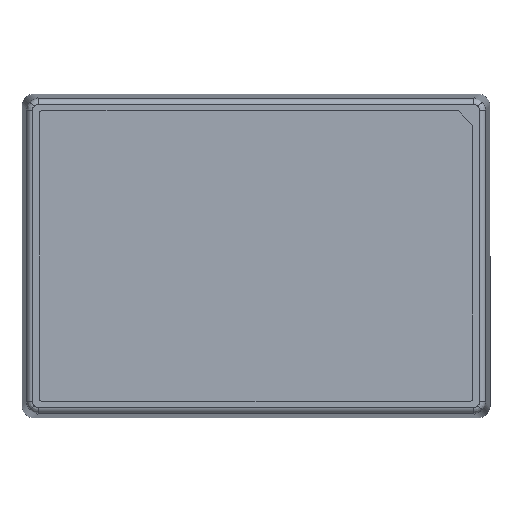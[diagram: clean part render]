
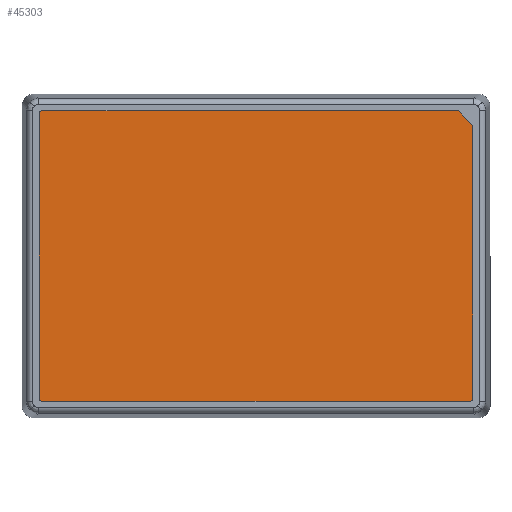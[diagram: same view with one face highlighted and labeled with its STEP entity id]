
A CAD part, front view. The second image highlights one B-rep face of the part: STEP entity #45303.
In plain terms, the highlighted planar face has unit normal (0, -1, 0).
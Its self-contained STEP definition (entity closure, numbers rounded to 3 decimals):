
#156 = EDGE_LOOP ( 'NONE', ( #57738, #26707, #95735, #19350, #76195, #93363, #37369, #5926 ) ) ;
#3661 = CARTESIAN_POINT ( 'NONE',  ( -37., -30.3, 24.75 ) ) ;
#5411 = CARTESIAN_POINT ( 'NONE',  ( 36.5, -30.3, -24.75 ) ) ;
#5926 = ORIENTED_EDGE ( 'NONE', *, *, #16798, .T. ) ;
#6048 = EDGE_CURVE ( 'NONE', #48769, #78757, #74540, .T. ) ;
#8812 = CARTESIAN_POINT ( 'NONE',  ( -37., -30.3, -24.25 ) ) ;
#10522 = CARTESIAN_POINT ( 'NONE',  ( -36.5, -30.3, 24.75 ) ) ;
#11885 = CARTESIAN_POINT ( 'NONE',  ( 36.5, -30.3, -24.25 ) ) ;
#14120 = DIRECTION ( 'NONE',  ( 0., -1., 0. ) ) ;
#16303 = AXIS2_PLACEMENT_3D ( 'NONE', #84989, #14120, #45717 ) ;
#16798 = EDGE_CURVE ( 'NONE', #66891, #48769, #39663, .T. ) ;
#16861 = CARTESIAN_POINT ( 'NONE',  ( 29.625, -30.3, 29.625 ) ) ;
#17856 = DIRECTION ( 'NONE',  ( 0., 0., -1. ) ) ;
#18035 = CARTESIAN_POINT ( 'NONE',  ( 37., -30.3, 24.75 ) ) ;
#18646 = CARTESIAN_POINT ( 'NONE',  ( 37., -30.3, -24.25 ) ) ;
#19350 = ORIENTED_EDGE ( 'NONE', *, *, #102018, .T. ) ;
#20157 = VERTEX_POINT ( 'NONE', #18646 ) ;
#21316 = LINE ( 'NONE', #52899, #81639 ) ;
#21884 = FACE_OUTER_BOUND ( 'NONE', #156, .T. ) ;
#22327 = CARTESIAN_POINT ( 'NONE',  ( -36.5, -30.3, -24.75 ) ) ;
#23314 = CIRCLE ( 'NONE', #81127, 0.5 ) ;
#26707 = ORIENTED_EDGE ( 'NONE', *, *, #36448, .T. ) ;
#28224 = EDGE_CURVE ( 'NONE', #84952, #98307, #21316, .T. ) ;
#29557 = CARTESIAN_POINT ( 'NONE',  ( -37., -30.3, 24.75 ) ) ;
#29590 = CARTESIAN_POINT ( 'NONE',  ( -36.5, -30.3, -24.25 ) ) ;
#33643 = AXIS2_PLACEMENT_3D ( 'NONE', #29590, #61149, #92685 ) ;
#35278 = DIRECTION ( 'NONE',  ( 0., 0., -1. ) ) ;
#36448 = EDGE_CURVE ( 'NONE', #78757, #84952, #78211, .T. ) ;
#37369 = ORIENTED_EDGE ( 'NONE', *, *, #75774, .T. ) ;
#39663 = CIRCLE ( 'NONE', #97408, 0.5 ) ;
#40377 = CARTESIAN_POINT ( 'NONE',  ( 37., -30.3, 22.25 ) ) ;
#42302 = VERTEX_POINT ( 'NONE', #40377 ) ;
#43468 = DIRECTION ( 'NONE',  ( 0., -1., 0. ) ) ;
#45249 = VECTOR ( 'NONE', #48453, 1000. ) ;
#45303 = ADVANCED_FACE ( 'NONE', ( #21884 ), #53465, .T. ) ;
#45717 = DIRECTION ( 'NONE',  ( 0., 0., -1. ) ) ;
#48453 = DIRECTION ( 'NONE',  ( -0.707, 0., 0.707 ) ) ;
#48769 = VERTEX_POINT ( 'NONE', #49596 ) ;
#49319 = VERTEX_POINT ( 'NONE', #86403 ) ;
#49596 = CARTESIAN_POINT ( 'NONE',  ( -37., -30.3, 24.25 ) ) ;
#49622 = DIRECTION ( 'NONE',  ( 0., 0., 1. ) ) ;
#52899 = CARTESIAN_POINT ( 'NONE',  ( -37., -30.3, -24.75 ) ) ;
#53465 = PLANE ( 'NONE',  #16303 ) ;
#55087 = VECTOR ( 'NONE', #49622, 1000. ) ;
#57178 = CARTESIAN_POINT ( 'NONE',  ( -36.5, -30.3, 24.25 ) ) ;
#57241 = VECTOR ( 'NONE', #35278, 1000. ) ;
#57738 = ORIENTED_EDGE ( 'NONE', *, *, #6048, .T. ) ;
#61118 = DIRECTION ( 'NONE',  ( -1., 0., 0. ) ) ;
#61149 = DIRECTION ( 'NONE',  ( 0., -1., 0. ) ) ;
#66891 = VERTEX_POINT ( 'NONE', #10522 ) ;
#67903 = EDGE_CURVE ( 'NONE', #20157, #42302, #88903, .T. ) ;
#74540 = LINE ( 'NONE', #3661, #57241 ) ;
#75016 = DIRECTION ( 'NONE',  ( 0., 0., -1. ) ) ;
#75774 = EDGE_CURVE ( 'NONE', #49319, #66891, #100421, .T. ) ;
#76195 = ORIENTED_EDGE ( 'NONE', *, *, #67903, .T. ) ;
#78211 = CIRCLE ( 'NONE', #33643, 0.5 ) ;
#78757 = VERTEX_POINT ( 'NONE', #8812 ) ;
#81127 = AXIS2_PLACEMENT_3D ( 'NONE', #11885, #43468, #75016 ) ;
#81380 = EDGE_CURVE ( 'NONE', #42302, #49319, #87723, .T. ) ;
#81639 = VECTOR ( 'NONE', #84404, 1000. ) ;
#84404 = DIRECTION ( 'NONE',  ( 1., 0., 0. ) ) ;
#84952 = VERTEX_POINT ( 'NONE', #22327 ) ;
#84989 = CARTESIAN_POINT ( 'NONE',  ( 0., -30.3, 0. ) ) ;
#86403 = CARTESIAN_POINT ( 'NONE',  ( 34.5, -30.3, 24.75 ) ) ;
#87723 = LINE ( 'NONE', #16861, #45249 ) ;
#88715 = DIRECTION ( 'NONE',  ( 0., -1., 0. ) ) ;
#88903 = LINE ( 'NONE', #18035, #55087 ) ;
#92685 = DIRECTION ( 'NONE',  ( 0., 0., -1. ) ) ;
#93363 = ORIENTED_EDGE ( 'NONE', *, *, #81380, .T. ) ;
#93879 = VECTOR ( 'NONE', #61118, 1000. ) ;
#95735 = ORIENTED_EDGE ( 'NONE', *, *, #28224, .T. ) ;
#97408 = AXIS2_PLACEMENT_3D ( 'NONE', #57178, #88715, #17856 ) ;
#98307 = VERTEX_POINT ( 'NONE', #5411 ) ;
#100421 = LINE ( 'NONE', #29557, #93879 ) ;
#102018 = EDGE_CURVE ( 'NONE', #98307, #20157, #23314, .T. ) ;
